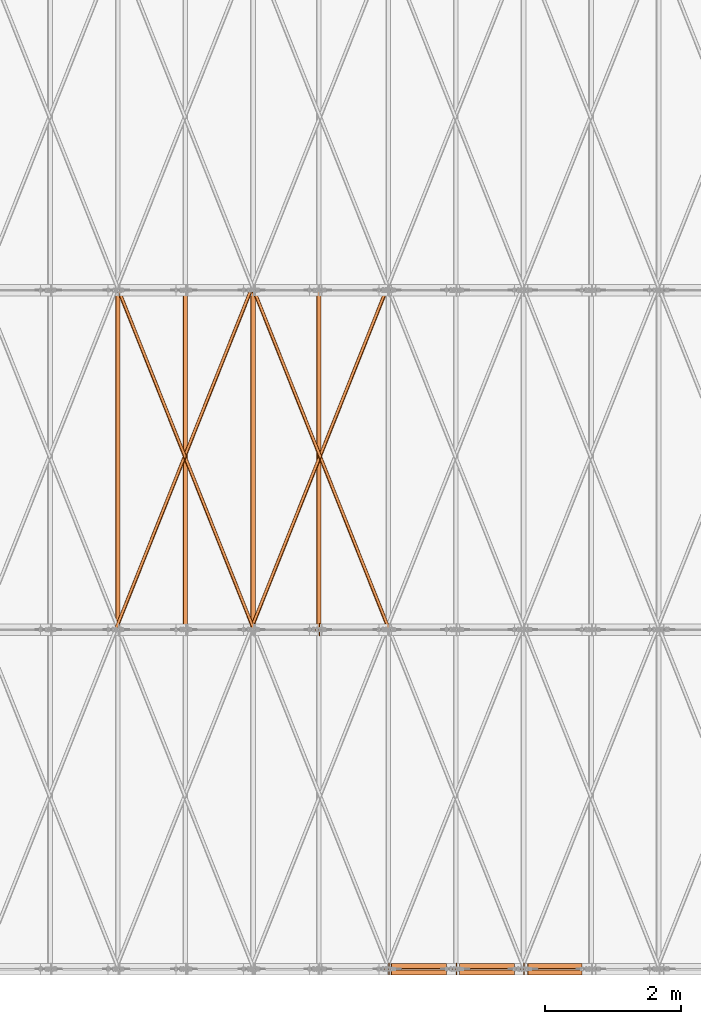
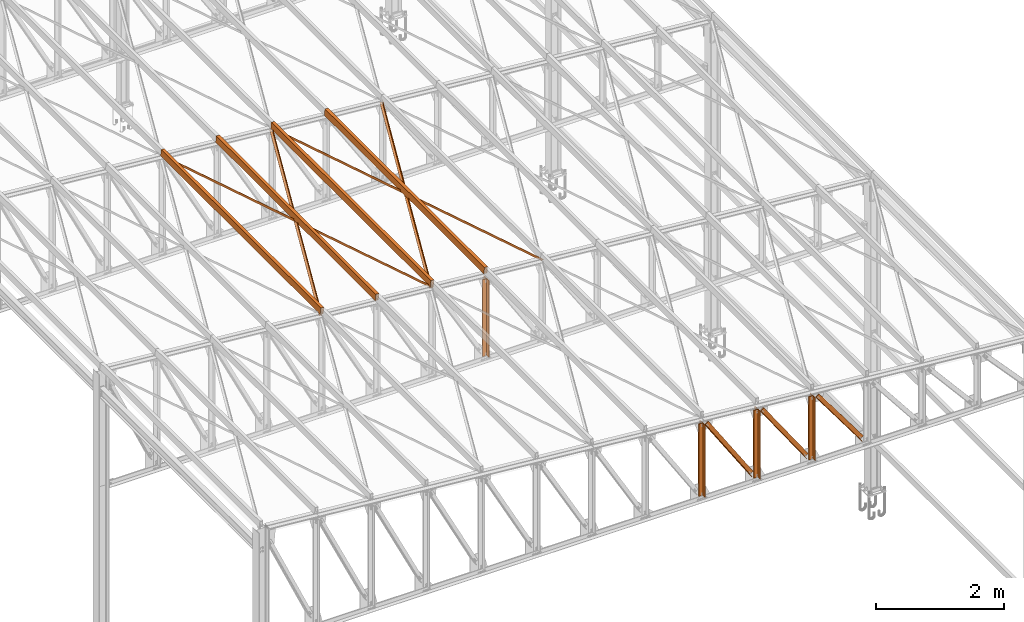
# One storey, part 234 of 251: 22 proxies.
"""IFC4 building model written with IfcOpenShell, lengths in metres."""

from ifc_helpers import new_model, si_unit, frame, frame_2d, origin_with_axes, origin_2d_with_axis, place, context, project, spatial, polyline, hollow_rectangle, i_section, l_section, outline, extrude, material, material_profile, profile_set, profile_usage, type_object, element, save


model = new_model("IFC4")

# Units and contexts
model_context = context("Model", 3, precision=1e-05, world=origin_with_axes())
ifc_project = project(units=[si_unit("LENGTHUNIT", "METRE"), si_unit("AREAUNIT", "SQUARE_METRE"), si_unit("VOLUMEUNIT", "CUBIC_METRE"), si_unit("MASSUNIT", "GRAM", prefix="KILO"), si_unit("TIMEUNIT", "SECOND"), si_unit("PLANEANGLEUNIT", "RADIAN"), si_unit("SOLIDANGLEUNIT", "STERADIAN"), si_unit("THERMODYNAMICTEMPERATUREUNIT", "DEGREE_CELSIUS")], contexts=[model_context])

# Site, building, storey
placement_1 = place(None, origin_with_axes())
site = spatial("IfcSite", under=ifc_project, at=placement_1, Name="Italia", CompositionType="ELEMENT")
building = spatial("IfcBuilding", under=site, at=placement_1, Name="Deposito", CompositionType="ELEMENT")
storey = spatial("IfcBuildingStorey", under=building, at=placement_1, Name="Storey 0", CompositionType="ELEMENT", Elevation=0.0)

# Proxies
ifc_material = material(Name="Acciaio", Category="Acciaio")
ifc_material_profile = material_profile(ifc_material, i_section(OverallWidth=0.2, OverallDepth=0.19, WebThickness=0.006, FlangeThickness=0.01, FilletRadius=0.018, at=origin_2d_with_axis()), Name="7 PILASTRO HEA200")
ifc_profile_set = profile_set([ifc_material_profile])
ifc_profile_usage_1 = profile_usage(ifc_profile_set, cardinal=1)
member_type_1 = type_object("IfcMemberType", Name="5 2L80x8", PredefinedType="MEMBER", material=ifc_profile_usage_1)
placement_2 = place(placement_1, origin_with_axes())
proxy_1_placement = place(placement_2, origin_with_axes())
element("IfcBuildingElementProxy", 1, at=proxy_1_placement, inside=storey, type_object=member_type_1, Name="130001", context=model_context, shape_type="SweptSolid", body=[
    extrude(outline(polyline([(0.0, 0.0), (-0.08, 0.0), (-0.08, 0.00800133), (-0.008, 0.00800133), (-0.008, 0.0800018), (0.0, 0.0800018), (0.0, 0.0)])), frame((16.0808, -0.005, 6.22193), z_axis=(0.594154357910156, 0.0, -0.804351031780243), x_axis=(0.0, 1.0, 0.0)), (0.0, 0.0, 1.0), 1.3443),
])
ifc_profile_usage_2 = profile_usage(ifc_profile_set, cardinal=1)
member_type_2 = type_object("IfcMemberType", Name="5 2L80x8", PredefinedType="MEMBER", material=ifc_profile_usage_2)
proxy_2_placement = place(placement_2, origin_with_axes())
element("IfcBuildingElementProxy", 2, at=proxy_2_placement, inside=storey, type_object=member_type_2, Name="130001", context=model_context, shape_type="SweptSolid", body=[
    extrude(outline(polyline([(0.0, 0.0), (0.008, 0.0), (0.008, -0.0720005), (0.08, -0.0720005), (0.08, -0.0799999), (0.0, -0.0799999), (0.0, 0.0)])), frame((16.1452, 0.005, 6.26946), z_axis=(0.594154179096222, 0.0, -0.804351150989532), x_axis=(0.0, 1.0, 0.0)), (0.0, 0.0, 1.0), 1.3443),
])
ifc_profile_usage_3 = profile_usage(ifc_profile_set, cardinal=1)
member_type_3 = type_object("IfcMemberType", Name="5 2L80x8", PredefinedType="MEMBER", material=ifc_profile_usage_3)
proxy_3_placement = place(placement_2, origin_with_axes())
element("IfcBuildingElementProxy", 3, at=proxy_3_placement, inside=storey, type_object=member_type_3, Name="10", context=model_context, shape_type="SweptSolid", body=[
    extrude(outline(polyline([(0.0, 0.0), (-0.08, 0.0), (-0.08, 0.00799942), (-0.008, 0.00799942), (-0.008, 0.079999), (0.0, 0.079999), (0.0, 0.0)])), frame((16.0377, -0.005, 5.06753), z_axis=(0.0, 0.0, 1.0), x_axis=(0.0, 1.0, 0.0)), (0.0, 0.0, 1.0), 1.21133),
])
ifc_profile_usage_4 = profile_usage(ifc_profile_set, cardinal=1)
member_type_4 = type_object("IfcMemberType", Name="5 2L80x8", PredefinedType="MEMBER", material=ifc_profile_usage_4)
proxy_4_placement = place(placement_2, origin_with_axes())
element("IfcBuildingElementProxy", 4, at=proxy_4_placement, inside=storey, type_object=member_type_4, Name="10", context=model_context, shape_type="SweptSolid", body=[
    extrude(outline(polyline([(0.0, 0.0), (0.008, 0.0), (0.008, -0.0719995), (0.08, -0.0719995), (0.08, -0.079999), (0.0, -0.079999), (0.0, 0.0)])), frame((15.9577, 0.005, 5.06753), z_axis=(0.0, 0.0, 1.0), x_axis=(0.0, 1.0, 0.0)), (0.0, 0.0, 1.0), 1.21133),
])
ifc_profile_usage_5 = profile_usage(ifc_profile_set, cardinal=1)
member_type_5 = type_object("IfcMemberType", Name="5 2L80x8", PredefinedType="MEMBER", material=ifc_profile_usage_5)
proxy_5_placement = place(placement_2, origin_with_axes())
element("IfcBuildingElementProxy", 5, at=proxy_5_placement, inside=storey, type_object=member_type_5, Name="140001", context=model_context, shape_type="SweptSolid", body=[
    extrude(outline(polyline([(0.0, 0.0), (-0.08, 0.0), (-0.08, 0.00800037), (-0.008, 0.00800037), (-0.008, 0.0800018), (0.0, 0.0800018), (0.0, 0.0)])), frame((15.0779, -0.005, 6.31149), z_axis=(0.570057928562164, 0.0, -0.821604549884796), x_axis=(0.0, 1.0, 0.0)), (0.0, 0.0, 1.0), 1.41056),
])
ifc_profile_usage_6 = profile_usage(ifc_profile_set, cardinal=1)
member_type_6 = type_object("IfcMemberType", Name="5 2L80x8", PredefinedType="MEMBER", material=ifc_profile_usage_6)
proxy_6_placement = place(placement_2, origin_with_axes())
element("IfcBuildingElementProxy", 6, at=proxy_6_placement, inside=storey, type_object=member_type_6, Name="140001", context=model_context, shape_type="SweptSolid", body=[
    extrude(outline(polyline([(0.0, 0.0), (0.008, 0.0), (0.008, -0.0720024), (0.08, -0.0720024), (0.08, -0.0800018), (0.0, -0.0800018), (0.0, 0.0)])), frame((15.1436, 0.005, 6.35709), z_axis=(0.570057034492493, 0.0, -0.821605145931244), x_axis=(0.0, 1.0, 0.0)), (0.0, 0.0, 1.0), 1.41056),
])
ifc_profile_usage_7 = profile_usage(ifc_profile_set, cardinal=1)
member_type_7 = type_object("IfcMemberType", Name="5 2L80x8", PredefinedType="MEMBER", material=ifc_profile_usage_7)
proxy_7_placement = place(placement_2, origin_with_axes())
element("IfcBuildingElementProxy", 7, at=proxy_7_placement, inside=storey, type_object=member_type_7, Name="9", context=model_context, shape_type="SweptSolid", body=[
    extrude(outline(polyline([(0.0, 0.0), (-0.08, 0.0), (-0.08, 0.00800037), (-0.008, 0.00800037), (-0.008, 0.0799999), (0.0, 0.0799999), (0.0, 0.0)])), frame((15.0415, -0.005, 5.06753), z_axis=(0.0, 0.0, 1.0), x_axis=(0.0, 1.0, 0.0)), (0.0, 0.0, 1.0), 1.29848),
])
ifc_profile_usage_8 = profile_usage(ifc_profile_set, cardinal=1)
member_type_8 = type_object("IfcMemberType", Name="5 2L80x8", PredefinedType="MEMBER", material=ifc_profile_usage_8)
proxy_8_placement = place(placement_2, origin_with_axes())
element("IfcBuildingElementProxy", 8, at=proxy_8_placement, inside=storey, type_object=member_type_8, Name="9", context=model_context, shape_type="SweptSolid", body=[
    extrude(outline(polyline([(0.0, 0.0), (0.008, 0.0), (0.008, -0.0719995), (0.08, -0.0719995), (0.08, -0.0799999), (0.0, -0.0799999), (0.0, 0.0)])), frame((14.9615, 0.005, 5.06753), z_axis=(0.0, 0.0, 1.0), x_axis=(0.0, 1.0, 0.0)), (0.0, 0.0, 1.0), 1.29848),
])
ifc_profile_usage_9 = profile_usage(ifc_profile_set, cardinal=1)
member_type_9 = type_object("IfcMemberType", Name="5 2L80x8", PredefinedType="MEMBER", material=ifc_profile_usage_9)
proxy_9_placement = place(placement_2, origin_with_axes())
element("IfcBuildingElementProxy", 9, at=proxy_9_placement, inside=storey, type_object=member_type_9, Name="150001", context=model_context, shape_type="SweptSolid", body=[
    extrude(outline(polyline([(0.0, 0.0), (-0.08, 0.0), (-0.08, 0.00800037), (-0.008, 0.00800037), (-0.008, 0.0800018), (0.0, 0.0800018), (0.0, 0.0)])), frame((14.0758, -0.005, 6.40086), z_axis=(0.547415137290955, 0.0, -0.836861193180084), x_axis=(0.0, 1.0, 0.0)), (0.0, 0.0, 1.0), 1.47743),
])
ifc_profile_usage_10 = profile_usage(ifc_profile_set, cardinal=1)
member_type_10 = type_object("IfcMemberType", Name="5 2L80x8", PredefinedType="MEMBER", material=ifc_profile_usage_10)
proxy_10_placement = place(placement_2, origin_with_axes())
element("IfcBuildingElementProxy", 10, at=proxy_10_placement, inside=storey, type_object=member_type_10, Name="150001", context=model_context, shape_type="SweptSolid", body=[
    extrude(outline(polyline([(0.0, 0.0), (0.008, 0.0), (0.008, -0.0720005), (0.08, -0.0720005), (0.08, -0.0800009), (0.0, -0.0800009), (0.0, 0.0)])), frame((14.1427, 0.005, 6.44465), z_axis=(0.547414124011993, 0.0, -0.836861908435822), x_axis=(0.0, 1.0, 0.0)), (0.0, 0.0, 1.0), 1.47743),
])
ifc_profile_usage_11 = profile_usage(ifc_profile_set, cardinal=1)
member_type_11 = type_object("IfcMemberType", Name="5 2L80x8", PredefinedType="MEMBER", material=ifc_profile_usage_11)
proxy_11_placement = place(placement_2, origin_with_axes())
element("IfcBuildingElementProxy", 11, at=proxy_11_placement, inside=storey, type_object=member_type_11, Name="8", context=model_context, shape_type="SweptSolid", body=[
    extrude(outline(polyline([(0.0, 0.0), (-0.08, 0.0), (-0.08, 0.00800037), (-0.008, 0.00800037), (-0.008, 0.0799999), (0.0, 0.0799999), (0.0, 0.0)])), frame((14.0453, -0.005, 5.06753), z_axis=(0.0, 0.0, 1.0), x_axis=(0.0, 1.0, 0.0)), (0.0, 0.0, 1.0), 1.38564),
])
ifc_profile_usage_12 = profile_usage(ifc_profile_set, cardinal=1)
member_type_12 = type_object("IfcMemberType", Name="5 2L80x8", PredefinedType="MEMBER", material=ifc_profile_usage_12)
proxy_12_placement = place(placement_2, origin_with_axes())
element("IfcBuildingElementProxy", 12, at=proxy_12_placement, inside=storey, type_object=member_type_12, Name="8", context=model_context, shape_type="SweptSolid", body=[
    extrude(outline(polyline([(0.0, 0.0), (0.008, 0.0), (0.008, -0.0719995), (0.08, -0.0719995), (0.08, -0.0799999), (0.0, -0.0799999), (0.0, 0.0)])), frame((13.9653, 0.005, 5.06753), z_axis=(0.0, 0.0, 1.0), x_axis=(0.0, 1.0, 0.0)), (0.0, 0.0, 1.0), 1.38564),
])
ifc_profile_usage_13 = profile_usage(ifc_profile_set, cardinal=1)
member_type_13 = type_object("IfcMemberType", Name="5 2L80x8", PredefinedType="MEMBER", material=ifc_profile_usage_13)
proxy_13_placement = place(placement_2, origin_with_axes())
element("IfcBuildingElementProxy", 13, at=proxy_13_placement, inside=storey, type_object=member_type_13, Name="25", context=model_context, shape_type="SweptSolid", body=[
    extrude(outline(polyline([(0.0, 0.0), (-0.0799999, 0.0), (-0.0799999, 0.00800037), (-0.0079999, 0.00800037), (-0.0079999, 0.0799999), (0.0, 0.0799999), (0.0, 0.0)])), frame((13.0225, 4.995, 5.06753), z_axis=(0.0, 0.0, 1.0), x_axis=(0.0, 1.0, 0.0)), (0.0, 0.0, 1.0), 1.47286),
])
ifc_profile_usage_14 = profile_usage(ifc_profile_set, cardinal=1)
member_type_14 = type_object("IfcMemberType", Name="5 2L80x8", PredefinedType="MEMBER", material=ifc_profile_usage_14)
proxy_14_placement = place(placement_2, origin_with_axes())
element("IfcBuildingElementProxy", 14, at=proxy_14_placement, inside=storey, type_object=member_type_14, Name="25", context=model_context, shape_type="SweptSolid", body=[
    extrude(outline(polyline([(0.0, 0.0), (0.0079999, 0.0), (0.0079999, -0.0719995), (0.0799999, -0.0719995), (0.0799999, -0.0799999), (0.0, -0.0799999), (0.0, 0.0)])), frame((12.9425, 5.005, 5.06753), z_axis=(0.0, 0.0, 1.0), x_axis=(0.0, 1.0, 0.0)), (0.0, 0.0, 1.0), 1.47286),
])
ifc_profile_usage_15 = profile_usage(ifc_profile_set, cardinal=8)
member_type_15 = type_object("IfcMemberType", Name="1 RHS120x60x8", PredefinedType="MEMBER", material=ifc_profile_usage_15)
proxy_15_placement = place(placement_2, origin_with_axes())
element("IfcBuildingElementProxy", 15, at=proxy_15_placement, inside=storey, type_object=member_type_15, Name="190024", context=model_context, shape_type="SweptSolid", body=[
    extrude(hollow_rectangle(XDim=0.06, YDim=0.12, WallThickness=0.008, at=frame_2d((0.0, 0.0), x_axis=(0.996194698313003, 0.087155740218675))), frame((10.0452, 5.0, 6.95379), z_axis=(0.0, 1.0, 0.0), x_axis=(-1.0, 0.0, 0.0)), (0.0, 0.0, 1.0), 5.0),
])
ifc_profile_usage_16 = profile_usage(ifc_profile_set, cardinal=8)
member_type_16 = type_object("IfcMemberType", Name="1 RHS120x60x8", PredefinedType="MEMBER", material=ifc_profile_usage_16)
proxy_16_placement = place(placement_2, origin_with_axes())
element("IfcBuildingElementProxy", 16, at=proxy_16_placement, inside=storey, type_object=member_type_16, Name="170027", context=model_context, shape_type="SweptSolid", body=[
    extrude(hollow_rectangle(XDim=0.06, YDim=0.12, WallThickness=0.008, at=frame_2d((0.0, 0.0), x_axis=(0.996194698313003, 0.087155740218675))), frame((12.0376, 5.0, 6.77948), z_axis=(0.0, 1.0, 0.0), x_axis=(-1.0, 0.0, 0.0)), (0.0, 0.0, 1.0), 5.0),
])
ifc_profile_usage_17 = profile_usage(ifc_profile_set, cardinal=8)
member_type_17 = type_object("IfcMemberType", Name="1 RHS120x60x8", PredefinedType="MEMBER", material=ifc_profile_usage_17)
proxy_17_placement = place(placement_2, origin_with_axes())
element("IfcBuildingElementProxy", 17, at=proxy_17_placement, inside=storey, type_object=member_type_17, Name="180026", context=model_context, shape_type="SweptSolid", body=[
    extrude(hollow_rectangle(XDim=0.06, YDim=0.12, WallThickness=0.008, at=frame_2d((0.0, 0.0), x_axis=(0.996194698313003, 0.087155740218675))), frame((11.0414, 5.0, 6.86664), z_axis=(0.0, 1.0, 0.0), x_axis=(-1.0, 0.0, 0.0)), (0.0, 0.0, 1.0), 5.0),
])
ifc_profile_usage_18 = profile_usage(ifc_profile_set, cardinal=8)
member_type_18 = type_object("IfcMemberType", Name="1 RHS120x60x8", PredefinedType="MEMBER", material=ifc_profile_usage_18)
proxy_18_placement = place(placement_2, origin_with_axes())
element("IfcBuildingElementProxy", 18, at=proxy_18_placement, inside=storey, type_object=member_type_18, Name="160028", context=model_context, shape_type="SweptSolid", body=[
    extrude(hollow_rectangle(XDim=0.06, YDim=0.12, WallThickness=0.008, at=frame_2d((0.0, 0.0), x_axis=(0.996194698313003, 0.087155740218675))), frame((13.0072, 5.0, 6.69233), z_axis=(0.0, 1.0, 0.0), x_axis=(-1.0, 0.0, 0.0)), (0.0, 0.0, 1.0), 5.0),
])
ifc_profile_usage_19 = profile_usage(ifc_profile_set, cardinal=5)
member_type_19 = type_object("IfcMemberType", Name="11 CONTROVENTI COPERTURA L50x5", PredefinedType="MEMBER", material=ifc_profile_usage_19)
proxy_19_placement = place(placement_2, origin_with_axes())
element("IfcBuildingElementProxy", 19, at=proxy_19_placement, inside=storey, type_object=member_type_19, Name="210056", context=model_context, shape_type="SweptSolid", body=[
    extrude(l_section(Depth=0.05, Width=0.05, Thickness=0.005, FilletRadius=0.007, EdgeRadius=0.0035, at=origin_2d_with_axis()), frame((10.0197, 5.00733, 6.89155), z_axis=(0.369977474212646, 0.928476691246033, -0.032368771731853), x_axis=(-0.928963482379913, 0.370171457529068, 0.0)), (0.0, 0.0, 1.0), 5.38516),
])
ifc_profile_usage_20 = profile_usage(ifc_profile_set, cardinal=5)
member_type_20 = type_object("IfcMemberType", Name="11 CONTROVENTI COPERTURA L50x5", PredefinedType="MEMBER", material=ifc_profile_usage_20)
proxy_20_placement = place(placement_2, origin_with_axes())
element("IfcBuildingElementProxy", 20, at=proxy_20_placement, inside=storey, type_object=member_type_20, Name="210057", context=model_context, shape_type="SweptSolid", body=[
    extrude(l_section(Depth=0.05, Width=0.05, Thickness=0.005, FilletRadius=0.007, EdgeRadius=0.0035, at=origin_2d_with_axis()), frame((12.049, 10.0068, 6.71724), z_axis=(0.369977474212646, -0.928476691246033, -0.03236885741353), x_axis=(0.928963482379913, 0.370171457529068, 0.0)), (0.0, 0.0, 1.0), 5.38516),
])
ifc_profile_usage_21 = profile_usage(ifc_profile_set, cardinal=5)
member_type_21 = type_object("IfcMemberType", Name="11 CONTROVENTI COPERTURA L50x5", PredefinedType="MEMBER", material=ifc_profile_usage_21)
proxy_21_placement = place(placement_2, origin_with_axes())
element("IfcBuildingElementProxy", 21, at=proxy_21_placement, inside=storey, type_object=member_type_21, Name="230049", context=model_context, shape_type="SweptSolid", body=[
    extrude(l_section(Depth=0.05, Width=0.05, Thickness=0.005, FilletRadius=0.007, EdgeRadius=0.0035, at=origin_2d_with_axis()), frame((10.0566, 10.0068, 6.89155), z_axis=(0.369977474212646, -0.928476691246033, -0.032368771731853), x_axis=(0.928963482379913, 0.370171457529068, 0.0)), (0.0, 0.0, 1.0), 5.38516),
])
ifc_profile_usage_22 = profile_usage(ifc_profile_set, cardinal=5)
member_type_22 = type_object("IfcMemberType", Name="11 CONTROVENTI COPERTURA L50x5", PredefinedType="MEMBER", material=ifc_profile_usage_22)
proxy_22_placement = place(placement_2, origin_with_axes())
element("IfcBuildingElementProxy", 22, at=proxy_22_placement, inside=storey, type_object=member_type_22, Name="190055", context=model_context, shape_type="SweptSolid", body=[
    extrude(l_section(Depth=0.05, Width=0.05, Thickness=0.005, FilletRadius=0.007, EdgeRadius=0.0035, at=origin_2d_with_axis()), frame((12.0121, 5.00733, 6.71724), z_axis=(0.369977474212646, 0.928476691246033, -0.03236885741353), x_axis=(-0.928963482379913, 0.370171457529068, 0.0)), (0.0, 0.0, 1.0), 5.38516),
])

save(model, "model.ifc")
